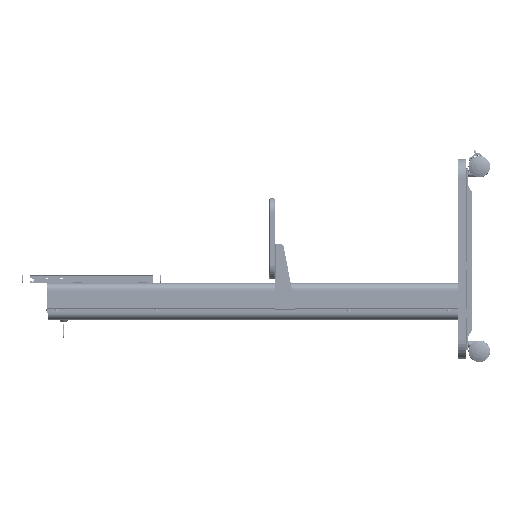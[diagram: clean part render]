
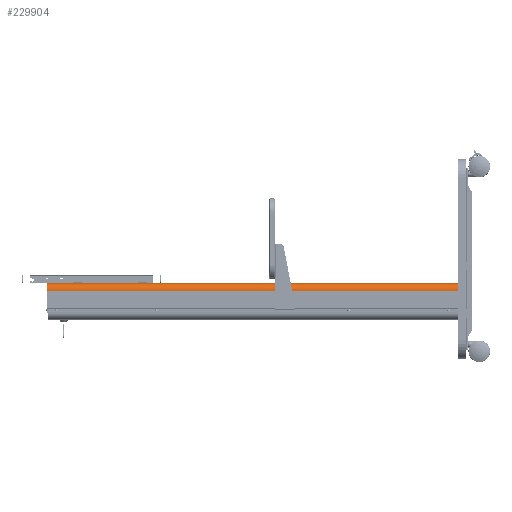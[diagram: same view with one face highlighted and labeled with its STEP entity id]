
A CAD part, left-side view. The second image highlights one B-rep face of the part: STEP entity #229904.
In plain terms, the highlighted cylindrical face has radius 25 mm (diameter 50 mm), a partial arc.
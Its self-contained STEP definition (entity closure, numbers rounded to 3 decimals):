
#69378 = VERTEX_POINT ( 'NONE', #144008 ) ;
#72089 = EDGE_CURVE ( 'NONE', #248925, #131726, #332224, .T. ) ;
#86202 = EDGE_CURVE ( 'NONE', #69378, #482013, #575815, .T. ) ;
#89334 = VECTOR ( 'NONE', #123538, 1000. ) ;
#123538 = DIRECTION ( 'NONE',  ( 0., -1., 0. ) ) ;
#131726 = VERTEX_POINT ( 'NONE', #319828 ) ;
#133993 = CARTESIAN_POINT ( 'NONE',  ( -90., 1422., 64. ) ) ;
#137510 = CARTESIAN_POINT ( 'NONE',  ( -90., 1422., 64. ) ) ;
#141535 = ORIENTED_EDGE ( 'NONE', *, *, #86202, .T. ) ;
#142427 = EDGE_LOOP ( 'NONE', ( #416145, #221540, #193939, #141535 ) ) ;
#144008 = CARTESIAN_POINT ( 'NONE',  ( -115., 1422., 64. ) ) ;
#154472 = DIRECTION ( 'NONE',  ( 0., -1., 0. ) ) ;
#159896 = CYLINDRICAL_SURFACE ( 'NONE', #442205, 25. ) ;
#178654 = DIRECTION ( 'NONE',  ( 0., 0., -1. ) ) ;
#185351 = AXIS2_PLACEMENT_3D ( 'NONE', #420384, #154472, #465104 ) ;
#192357 = CARTESIAN_POINT ( 'NONE',  ( -115., 0., 64. ) ) ;
#193939 = ORIENTED_EDGE ( 'NONE', *, *, #362698, .T. ) ;
#195784 = AXIS2_PLACEMENT_3D ( 'NONE', #133993, #444617, #178654 ) ;
#214152 = VECTOR ( 'NONE', #283444, 1000. ) ;
#221540 = ORIENTED_EDGE ( 'NONE', *, *, #72089, .F. ) ;
#222312 = CIRCLE ( 'NONE', #185351, 25. ) ;
#226714 = DIRECTION ( 'NONE',  ( 0., 0., -1. ) ) ;
#229904 = ADVANCED_FACE ( 'NONE', ( #396013 ), #159896, .T. ) ;
#238799 = CARTESIAN_POINT ( 'NONE',  ( -90., 1422., 89. ) ) ;
#248925 = VERTEX_POINT ( 'NONE', #348388 ) ;
#254711 = EDGE_CURVE ( 'NONE', #131726, #482013, #222312, .T. ) ;
#271413 = DIRECTION ( 'NONE',  ( 0., -1., 0. ) ) ;
#283444 = DIRECTION ( 'NONE',  ( 0., -1., 0. ) ) ;
#319828 = CARTESIAN_POINT ( 'NONE',  ( -90., 0., 89. ) ) ;
#332224 = LINE ( 'NONE', #238799, #214152 ) ;
#346651 = CIRCLE ( 'NONE', #195784, 25. ) ;
#348388 = CARTESIAN_POINT ( 'NONE',  ( -90., 1422., 89. ) ) ;
#362698 = EDGE_CURVE ( 'NONE', #248925, #69378, #346651, .T. ) ;
#396013 = FACE_OUTER_BOUND ( 'NONE', #142427, .T. ) ;
#416145 = ORIENTED_EDGE ( 'NONE', *, *, #254711, .F. ) ;
#420384 = CARTESIAN_POINT ( 'NONE',  ( -90., 0., 64. ) ) ;
#442205 = AXIS2_PLACEMENT_3D ( 'NONE', #137510, #271413, #226714 ) ;
#444617 = DIRECTION ( 'NONE',  ( 0., -1., 0. ) ) ;
#465104 = DIRECTION ( 'NONE',  ( 0., 0., -1. ) ) ;
#478811 = CARTESIAN_POINT ( 'NONE',  ( -115., 1422., 64. ) ) ;
#482013 = VERTEX_POINT ( 'NONE', #192357 ) ;
#575815 = LINE ( 'NONE', #478811, #89334 ) ;
